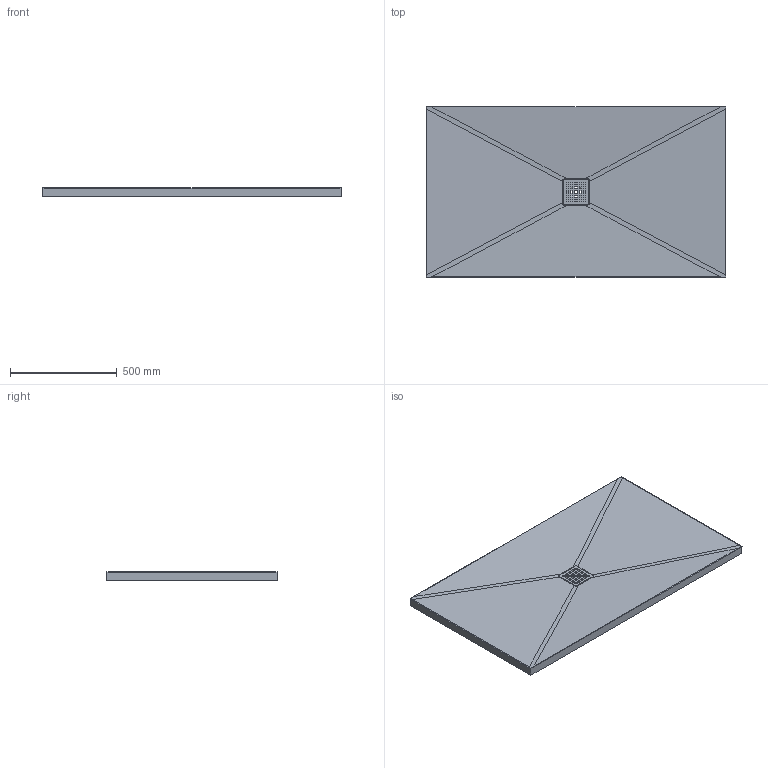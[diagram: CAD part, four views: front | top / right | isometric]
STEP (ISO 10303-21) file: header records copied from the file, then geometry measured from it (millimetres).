
FILE_DESCRIPTION (( 'STEP AP214' ), '1' );
FILE_NAME ('TRENT 140x80.STEP', '2024-05-13T12:00:38', ( '' ), ( '' ), 'SwSTEP 2.0', 'SolidWorks 2021', '' );
FILE_SCHEMA (( 'AUTOMOTIVE_DESIGN' ));
Length unit declared in the file: millimetre
Products named in the file (1): TRENT 140x80
Bounding box: 1400 x 800 x 40.08 mm (x, y, z)
Volume: 15893415.2 mm3; surface area: 2779264.9 mm2
Topology: 3 solids, 3 shells, 833 faces, 1993 edges, 1151 vertices
Faces by surface type: cylinder 365, bspline 291, plane 177
Full cylindrical faces by diameter (mm): 66 x1
Entity records: 38352 total; most frequent: CARTESIAN_POINT 21494, ORIENTED_EDGE 3974, DIRECTION 2508, EDGE_CURVE 1987, VERTEX_POINT 1151, LINE 928, VECTOR 928, EDGE_LOOP 902
